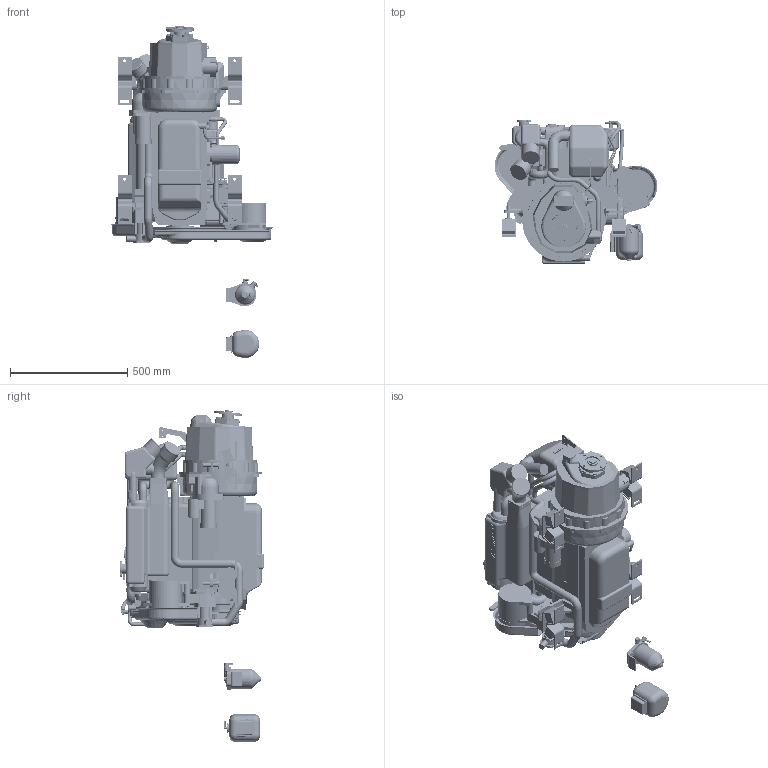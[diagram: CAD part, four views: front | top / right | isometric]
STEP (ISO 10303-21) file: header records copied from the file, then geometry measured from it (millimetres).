
FILE_DESCRIPTION(('CoCreate Modeling STEP Export'),'2;1');
FILE_NAME('4JH5E_KM4A1.stp','2013-04-12T 9:16:46',(''),(''),'CoCreate Modeling STEP processor for AP214 (Solid Model)','CoCreate Modeling 16.50A 01-Dec-2009 (C) Parametric Technology GmbH','');
FILE_SCHEMA(('AUTOMOTIVE_DESIGN { 1 0 10303 214 1 1 1 1 }'));
Length unit declared in the file: millimetre
Products named in the file (56): 4JH5E_001; 4JH5E_008; 4JH5E_028; 4JH5E_012; 4JH5E_011; 4JH5E_013; 4JH5E_014; 4JH5E_009; 4JH5E_019; 4JH5E_002; 4JH5E_033; 4JH5E_004; 4JH5E_003; 4JH5E_006; 4JH5E_005; 4JH5E_026; 4JH5E_027; 4JH5E_007; 4JH5E_010; 4JH5E_031; 4JH5E_015; 4JH5E_016; 4JH5E_032; 4JH5E_018; 4JH5E_022; 4JH5E_025; 4JH5E_023; 4JH5E_024; 4JH5E_017; 4JH5E_020; 4JH5E_021; 4JH5E_029; 4JH5E_030; Base; Mixing-elbow-type-2; Mixing-elbow-type-1; Mixing-elbow; 4JH5E_Engine_Gearbox; C.O.G._P1; C.O.G._P2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
Assembly tree (55 placements, depth 4):
  4JH5E_KM4A1
    KM4A1_Gearbox-JH5
      KM4A1_JH5_001
    4JH5E_Engine_Options
      4JH5E-option_004
      4JH5E-option_001
      4JH5E-option_002
      4JH5E-option_003
      4JH5E-option_007
      4JH5E-option_006
      4JH5E-option_005
    Center_of_gravity
      C.O.G._P5
      C.O.G._P6
      C.O.G._P4
      C.O.G._P3
      C.O.G._P2
      C.O.G._P1
    4JH5E_Engine_Gearbox
      Mixing-elbow
        Mixing-elbow-type-1
        Mixing-elbow-type-2
      Base
        4JH5E_030
        4JH5E_029
        4JH5E_021
        4JH5E_020
        4JH5E_017
        4JH5E_024
        4JH5E_023
        4JH5E_025
        4JH5E_022
        4JH5E_018
        4JH5E_032
        4JH5E_016
        4JH5E_015
        4JH5E_031
        4JH5E_010
        4JH5E_007
        4JH5E_027
        4JH5E_026
        4JH5E_005
        4JH5E_006
        4JH5E_003
        4JH5E_004
        4JH5E_033
        4JH5E_002
        4JH5E_019
        4JH5E_009
        4JH5E_014
        4JH5E_013
        4JH5E_011
        4JH5E_012
        4JH5E_028
        4JH5E_008
        4JH5E_001
Bounding box: 695.91 x 613.6 x 1417.94 mm (x, y, z)
Volume: 101958225.1 mm3; surface area: 6435946.2 mm2
Topology: 49 solids, 49 shells, 5563 faces, 14941 edges, 9611 vertices
Faces by surface type: cylinder 2528, plane 2125, torus 488, cone 169, bspline 93, sphere 86, extrusion 49, revolution 25
Entity records: 174046 total; most frequent: CARTESIAN_POINT 43236, ORIENTED_EDGE 29766, DIRECTION 24659, EDGE_CURVE 14883, VERTEX_POINT 9611, AXIS2_PLACEMENT_3D 8602, VECTOR 7434, LINE 7385
